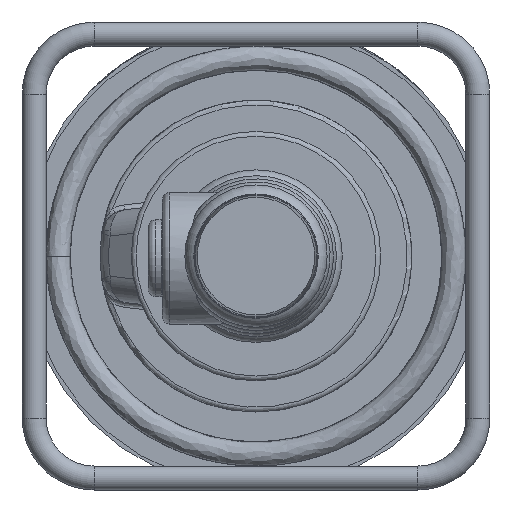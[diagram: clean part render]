
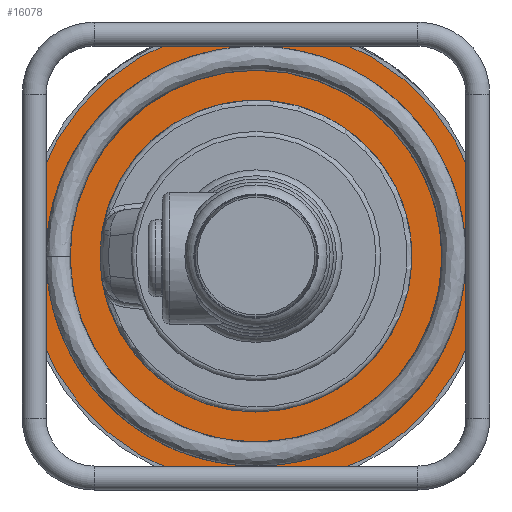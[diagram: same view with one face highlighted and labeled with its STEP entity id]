
A CAD part, left-side view. The second image highlights one B-rep face of the part: STEP entity #16078.
In plain terms, the highlighted planar face has unit normal (-1, 0, 0).
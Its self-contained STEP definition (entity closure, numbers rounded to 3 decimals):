
#128=FACE_BOUND('',#5375,.T.);
#1656=PLANE('',#17060);
#4388=FACE_OUTER_BOUND('',#5374,.T.);
#5374=EDGE_LOOP('',(#14364));
#5375=EDGE_LOOP('',(#14365));
#5895=CIRCLE('',#16998,65.);
#5935=CIRCLE('',#17061,96.);
#7506=VERTEX_POINT('',#37732);
#7545=VERTEX_POINT('',#38246);
#9761=EDGE_CURVE('',#7506,#7506,#5895,.T.);
#9829=EDGE_CURVE('',#7545,#7545,#5935,.T.);
#14364=ORIENTED_EDGE('',*,*,#9829,.F.);
#14365=ORIENTED_EDGE('',*,*,#9761,.T.);
#16078=ADVANCED_FACE('',(#4388,#128),#1656,.F.);
#16998=AXIS2_PLACEMENT_3D('',#37733,#19777,#19778);
#17060=AXIS2_PLACEMENT_3D('',#38245,#19909,#19910);
#17061=AXIS2_PLACEMENT_3D('',#38247,#19911,#19912);
#19777=DIRECTION('center_axis',(1.,0.,0.));
#19778=DIRECTION('ref_axis',(0.,0.,
1.));
#19909=DIRECTION('center_axis',(1.,0.,0.));
#19910=DIRECTION('ref_axis',(0.,1.,0.));
#19911=DIRECTION('center_axis',(1.,0.,0.));
#19912=DIRECTION('ref_axis',(0.,1.,0.));
#37732=CARTESIAN_POINT('',(0.,0.,-65.));
#37733=CARTESIAN_POINT('Origin',(0.,0.,
0.));
#38245=CARTESIAN_POINT('Origin',(0.,0.,
0.));
#38246=CARTESIAN_POINT('',(0.,-96.,0.));
#38247=CARTESIAN_POINT('Origin',(0.,0.,
0.));
